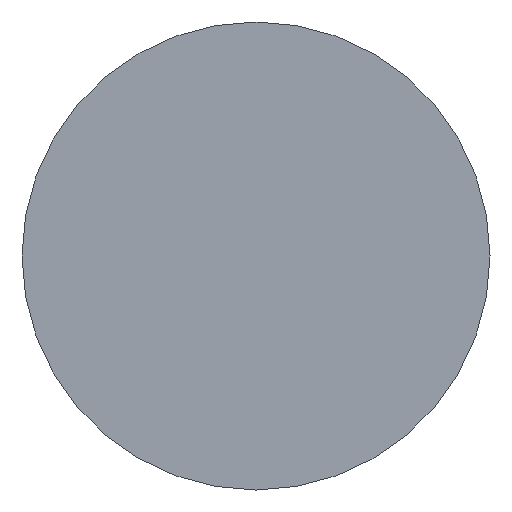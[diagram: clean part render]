
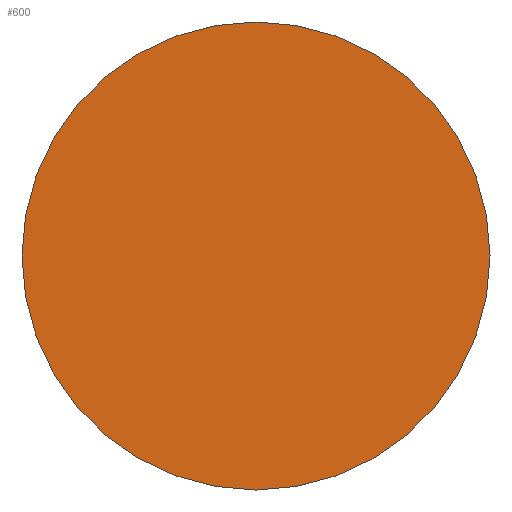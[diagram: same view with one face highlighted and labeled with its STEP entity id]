
A CAD part, front view. The second image highlights one B-rep face of the part: STEP entity #600.
In plain terms, the highlighted planar face has unit normal (0, -1, 0).
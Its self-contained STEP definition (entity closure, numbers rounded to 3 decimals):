
#100 = AXIS2_PLACEMENT_3D ( 'NONE', #931, #639, #201 ) ;
#102 = DIRECTION ( 'NONE',  ( -1., 0., 0. ) ) ;
#113 = DIRECTION ( 'NONE',  ( 0., 1., 0. ) ) ;
#181 = DIRECTION ( 'NONE',  ( 0., -1., 0. ) ) ;
#201 = DIRECTION ( 'NONE',  ( -1., 0., 0. ) ) ;
#232 = EDGE_CURVE ( 'NONE', #1138, #1026, #235, .T. ) ;
#235 = CIRCLE ( 'NONE', #100, 58.5 ) ;
#242 = EDGE_CURVE ( 'NONE', #1026, #1138, #410, .T. ) ;
#247 = FACE_OUTER_BOUND ( 'NONE', #992, .T. ) ;
#254 = PLANE ( 'NONE',  #860 ) ;
#388 = CARTESIAN_POINT ( 'NONE',  ( 58.5, 68., 0. ) ) ;
#410 = CIRCLE ( 'NONE', #1001, 58.5 ) ;
#600 = ADVANCED_FACE ( 'NONE', ( #247 ), #254, .T. ) ;
#639 = DIRECTION ( 'NONE',  ( 0., 1., 0. ) ) ;
#685 = CARTESIAN_POINT ( 'NONE',  ( -58.5, 68., 0. ) ) ;
#705 = ORIENTED_EDGE ( 'NONE', *, *, #232, .F. ) ;
#816 = CARTESIAN_POINT ( 'NONE',  ( 0., 68., 0. ) ) ;
#857 = ORIENTED_EDGE ( 'NONE', *, *, #242, .F. ) ;
#860 = AXIS2_PLACEMENT_3D ( 'NONE', #987, #181, #1142 ) ;
#931 = CARTESIAN_POINT ( 'NONE',  ( 0., 68., 0. ) ) ;
#987 = CARTESIAN_POINT ( 'NONE',  ( -55., 68., -55. ) ) ;
#992 = EDGE_LOOP ( 'NONE', ( #857, #705 ) ) ;
#1001 = AXIS2_PLACEMENT_3D ( 'NONE', #816, #113, #102 ) ;
#1026 = VERTEX_POINT ( 'NONE', #685 ) ;
#1138 = VERTEX_POINT ( 'NONE', #388 ) ;
#1142 = DIRECTION ( 'NONE',  ( 1., 0., 0. ) ) ;
